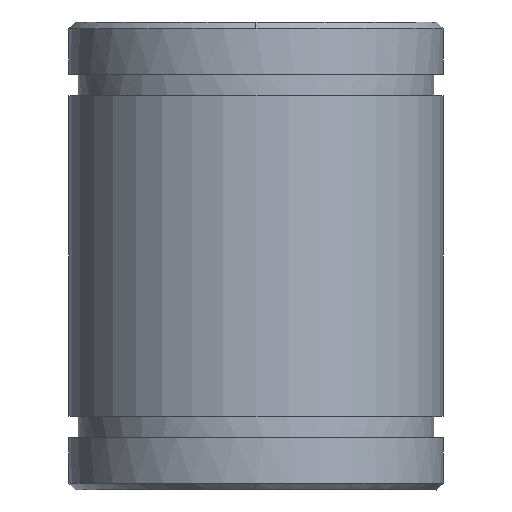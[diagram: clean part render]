
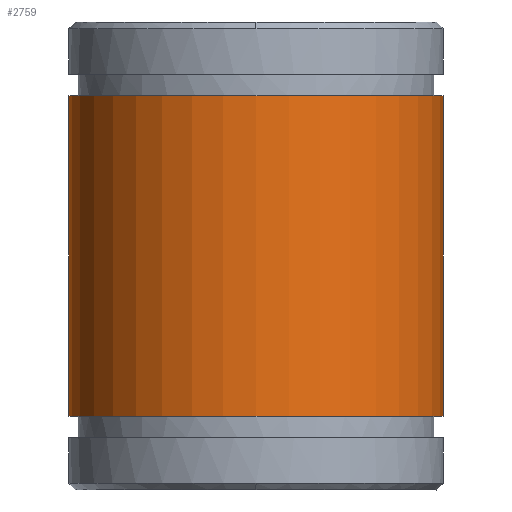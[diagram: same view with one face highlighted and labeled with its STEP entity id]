
A CAD part, front view. The second image highlights one B-rep face of the part: STEP entity #2759.
In plain terms, the highlighted cylindrical face has radius 14 mm (diameter 28 mm), a partial arc.
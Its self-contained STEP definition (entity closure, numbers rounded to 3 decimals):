
#2658=CARTESIAN_POINT('Axis2P3D Location',(0.,0.,5.5)) ;
#2662=CARTESIAN_POINT('Vertex',(-14.,0.,5.5)) ;
#2664=CARTESIAN_POINT('Vertex',(14.,0.,5.5)) ;
#2729=CARTESIAN_POINT('Axis2P3D Location',(0.,0.,-1.75)) ;
#2734=CARTESIAN_POINT('Line Origine',(-14.,0.,-1.75)) ;
#2738=CARTESIAN_POINT('Vertex',(-14.,0.,29.5)) ;
#2741=CARTESIAN_POINT('Line Origine',(14.,0.,-1.75)) ;
#2745=CARTESIAN_POINT('Vertex',(14.,0.,29.5)) ;
#2748=CARTESIAN_POINT('Axis2P3D Location',(0.,0.,29.5)) ;
#2659=DIRECTION('Axis2P3D Direction',(0.,0.,1.)) ;
#2730=DIRECTION('Axis2P3D Direction',(0.,0.,1.)) ;
#2731=DIRECTION('Axis2P3D XDirection',(-1.,0.,0.)) ;
#2735=DIRECTION('Vector Direction',(0.,0.,1.)) ;
#2742=DIRECTION('Vector Direction',(0.,0.,1.)) ;
#2749=DIRECTION('Axis2P3D Direction',(0.,0.,1.)) ;
#2660=AXIS2_PLACEMENT_3D('Circle Axis2P3D',#2658,#2659,$) ;
#2732=AXIS2_PLACEMENT_3D('Cylinder Axis2P3D',#2729,#2730,#2731) ;
#2750=AXIS2_PLACEMENT_3D('Circle Axis2P3D',#2748,#2749,$) ;
#2754=ORIENTED_EDGE('',*,*,#2740,.T.) ;
#2755=ORIENTED_EDGE('',*,*,#2666,.T.) ;
#2756=ORIENTED_EDGE('',*,*,#2747,.F.) ;
#2757=ORIENTED_EDGE('',*,*,#2752,.F.) ;
#2736=VECTOR('Line Direction',#2735,1.) ;
#2743=VECTOR('Line Direction',#2742,1.) ;
#2759=ADVANCED_FACE('MANIFOLD_SOLID_BREP #2066',(#2758),#2733,.T.) ;
#2661=CIRCLE('generated circle',#2660,14.) ;
#2751=CIRCLE('generated circle',#2750,14.) ;
#2733=CYLINDRICAL_SURFACE('generated cylinder',#2732,14.) ;
#2666=EDGE_CURVE('',#2663,#2665,#2661,.T.) ;
#2740=EDGE_CURVE('',#2739,#2663,#2737,.F.) ;
#2747=EDGE_CURVE('',#2746,#2665,#2744,.F.) ;
#2752=EDGE_CURVE('',#2739,#2746,#2751,.T.) ;
#2753=EDGE_LOOP('',(#2754,#2755,#2756,#2757)) ;
#2758=FACE_OUTER_BOUND('',#2753,.T.) ;
#2737=LINE('Line',#2734,#2736) ;
#2744=LINE('Line',#2741,#2743) ;
#2663=VERTEX_POINT('',#2662) ;
#2665=VERTEX_POINT('',#2664) ;
#2739=VERTEX_POINT('',#2738) ;
#2746=VERTEX_POINT('',#2745) ;
